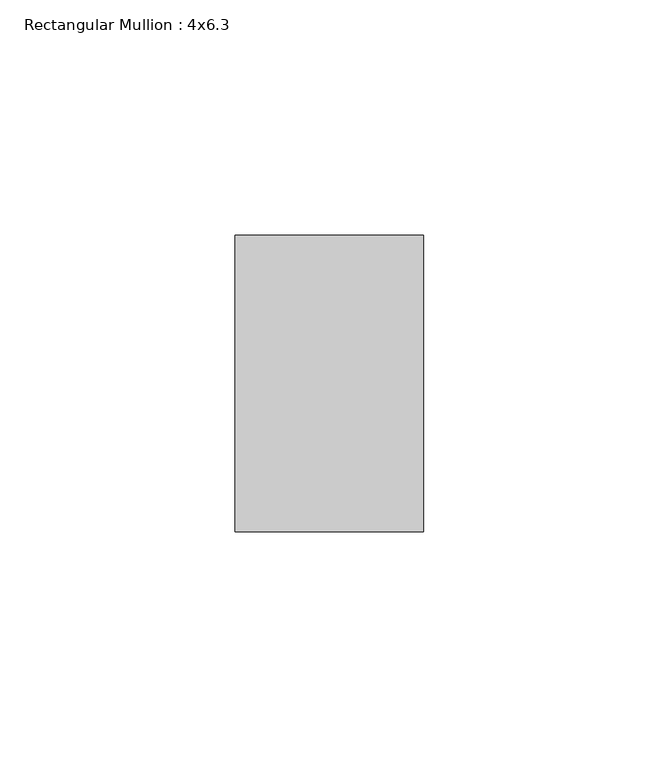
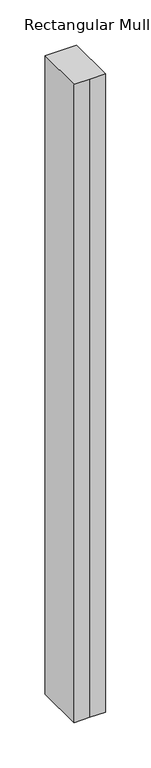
"""IFC4 building model written with IfcOpenShell, lengths in millimetres: member geometry, Rectangular Mullion : 4x6.3."""

from ifc_helpers import new_model, si_unit, frame, origin, place, context, project, spatial, polyline, outline, extrude, source, transform, mapped, element, save


def rectangular_mullion_4x6_3_721448b5(model_context):
    return source(origin(), model_context, "Body", "SweptSolid", [
        extrude(outline(polyline([(-20.0, 20.0), (-20.0, 83.0), (20.0, 83.0), (20.0, 20.0), (0.0, 20.0), (-20.0, 20.0)])), frame((0.0, 0.0, -856.5543809), z_axis=(0.0, 0.0, 1.0), x_axis=(1.0, 0.0, 0.0)), (0.0, 0.0, 1.0), 856.5543809),
    ])


if __name__ == "__main__":
    model = new_model("IFC4")
    model_context = context("Model", 3, world=origin())
    ifc_project = project(units=[si_unit("LENGTHUNIT", "METRE", prefix="MILLI")], contexts=[model_context])
    site = spatial("IfcSite", under=ifc_project)
    building = spatial("IfcBuilding", under=site)
    placement = place(None, origin())
    rectangular_mullion_4x6_3_shape = rectangular_mullion_4x6_3_721448b5(model_context)
    element("IfcMember", 1, ObjectType="Rectangular Mullion : 4x6.3", at=placement, inside=building, context=model_context, shape_type="MappedRepresentation", body=[
        mapped(rectangular_mullion_4x6_3_shape, transform((0.0, 0.0, 0.0), x_axis=(1.0, 0.0, 0.0), y_axis=(0.0, 1.0, 0.0), z_axis=(0.0, 0.0, 1.0))),
    ])
    save(model, "model.ifc")
